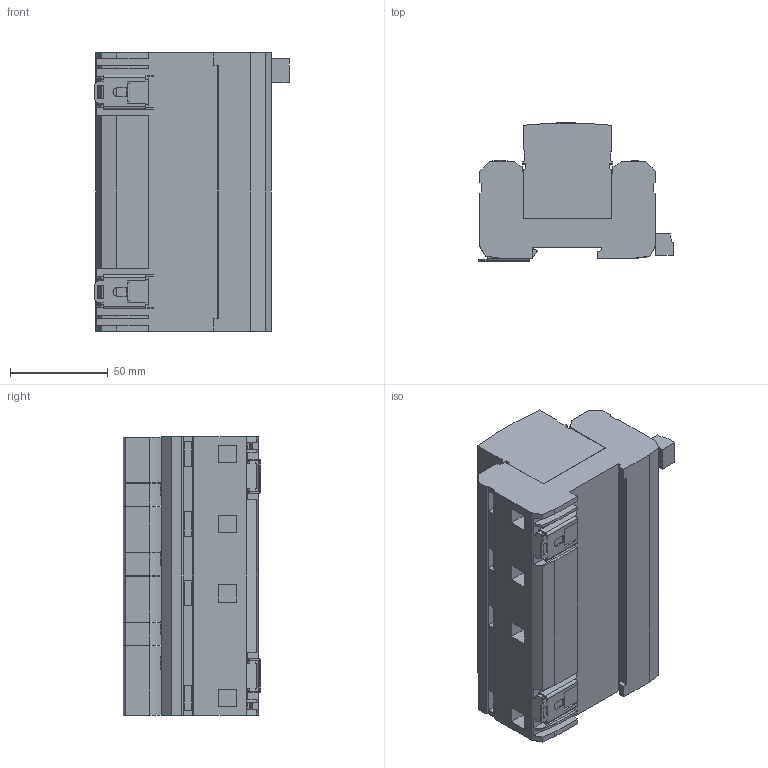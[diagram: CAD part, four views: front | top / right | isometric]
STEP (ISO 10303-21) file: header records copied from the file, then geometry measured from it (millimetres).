
FILE_DESCRIPTION((''),'2;1');
FILE_NAME('SB100406_3D-SIMPLIFIED_ASM','2014-02-27T',('FBon'),(''),'PRO/ENGINEER BY PARAMETRIC TECHNOLOGY CORPORATION, 2009280','PRO/ENGINEER BY PARAMETRIC TECHNOLOGY CORPORATION, 2009280','');
FILE_SCHEMA(('CONFIG_CONTROL_DESIGN'));
Length unit declared in the file: millimetre
Products named in the file (11): CORPUS; ATTACHE; PRT0001; BORNIER; CACHE; CORPUS2; PRT0002; PRT0003; CORPUS3; SB100406_3D_ASM; SB100406_3D-SIMPLIFIED_ASM
Assembly tree (10 placements, depth 3):
  SB100406_3D-SIMPLIFIED_ASM
    SB100406_3D_ASM
      CORPUS
      ATTACHE
      PRT0001
      BORNIER
      CACHE
      CORPUS2
      PRT0002
      PRT0003
      CORPUS3
Bounding box: 99.4 x 70.48 x 142.4 mm (x, y, z)
Volume: 699020.5 mm3; surface area: 123230.7 mm2
Topology: 17 solids, 17 shells, 660 faces, 1799 edges, 1200 vertices
Faces by surface type: plane 553, cylinder 97, bspline 10
Entity records: 21847 total; most frequent: CARTESIAN_POINT 4737, ORIENTED_EDGE 3598, DIRECTION 3363, EDGE_CURVE 1799, VECTOR 1487, LINE 1487, VERTEX_POINT 1200, AXIS2_PLACEMENT_3D 938
